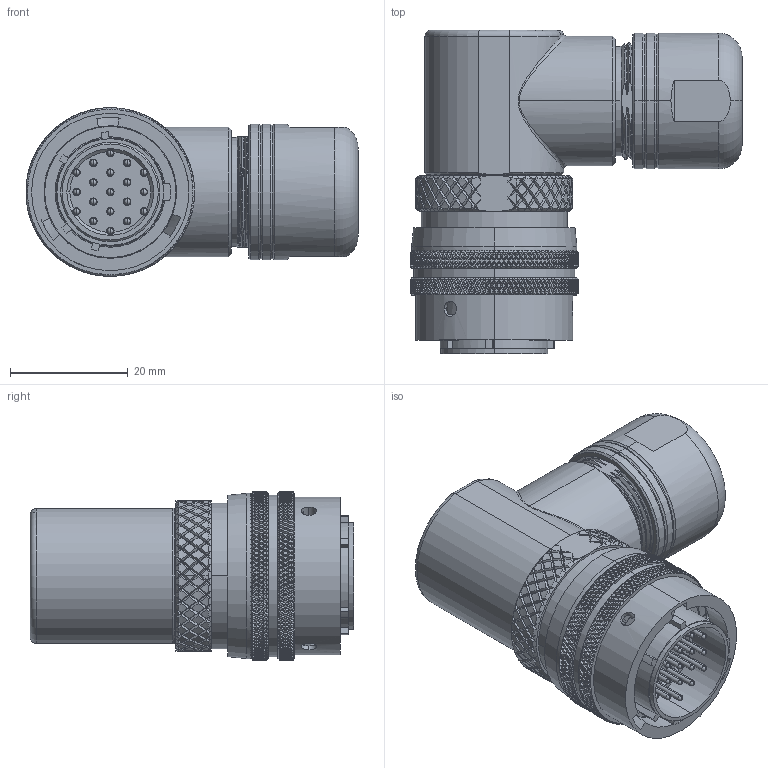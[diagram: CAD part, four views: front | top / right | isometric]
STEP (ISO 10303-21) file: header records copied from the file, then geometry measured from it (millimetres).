
FILE_DESCRIPTION (( 'STEP AP214' ), '1' );
FILE_NAME ('CMB08E-14-19P（072）SR-B.STEP', '2023-03-15T03:11:38', ( 'Windows User' ), ( 'P R C' ), 'SwSTEP 2.0', 'SolidWorks 2019', '' );
FILE_SCHEMA (( 'AUTOMOTIVE_DESIGN' ));
Length unit declared in the file: millimetre
Products named in the file (1): CMB08E-14-19P（072）SR-B
Bounding box: 56.29 x 54.85 x 28.57 mm (x, y, z)
Volume: 19784 mm3; surface area: 24078.4 mm2
Topology: 2 solids, 5 shells, 7682 faces, 18525 edges, 10771 vertices
Faces by surface type: bspline 4599, cylinder 1415, cone 1014, plane 588, sphere 38, torus 28
Entity records: 317992 total; most frequent: CARTESIAN_POINT 176641, ORIENTED_EDGE 36860, EDGE_CURVE 18430, DIRECTION 15770, B_SPLINE_CURVE_WITH_KNOTS 11321, VERTEX_POINT 10752, EDGE_LOOP 7756, ADVANCED_FACE 7682
